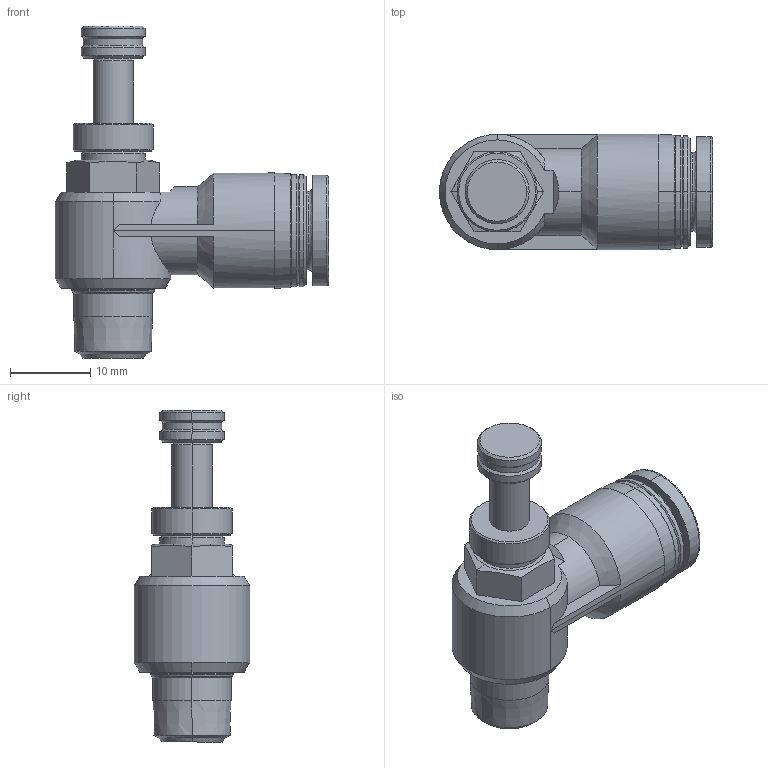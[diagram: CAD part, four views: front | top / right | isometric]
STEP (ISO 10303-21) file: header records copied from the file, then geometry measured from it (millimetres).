
FILE_DESCRIPTION (( 'STEP AP214' ), '1' );
FILE_NAME ('AJSC8-01.STEP', '2019-12-06T02:40:08', ( '微软用户' ), ( '微软中国' ), 'SwSTEP 2.0', 'SolidWorks 2016', '' );
FILE_SCHEMA (( 'AUTOMOTIVE_DESIGN' ));
Length unit declared in the file: millimetre
Products named in the file (1): AJSC8-01
Bounding box: 34.1 x 14.4 x 41.45 mm (x, y, z)
Volume: 5552.2 mm3; surface area: 3302.1 mm2
Topology: 1 solids, 1 shells, 116 faces, 261 edges, 158 vertices
Faces by surface type: cone 48, cylinder 37, plane 25, bspline 6
Entity records: 3746 total; most frequent: CARTESIAN_POINT 1117, DIRECTION 579, ORIENTED_EDGE 522, EDGE_CURVE 261, AXIS2_PLACEMENT_3D 243, VERTEX_POINT 158, CIRCLE 132, EDGE_LOOP 127
